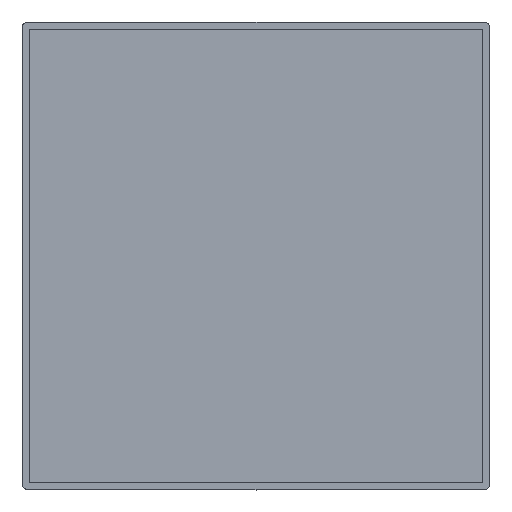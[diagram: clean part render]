
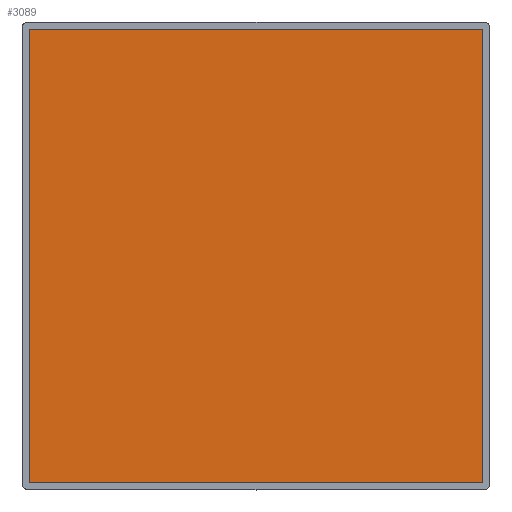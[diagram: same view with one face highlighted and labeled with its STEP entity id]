
A CAD part, top view. The second image highlights one B-rep face of the part: STEP entity #3089.
In plain terms, the highlighted planar face has unit normal (0, 0, 1).
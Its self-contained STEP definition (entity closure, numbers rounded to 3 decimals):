
#364=FACE_OUTER_BOUND('',#560,.T.);
#560=EDGE_LOOP('',(#2140,#2141,#2142,#2143));
#797=LINE('',#4427,#1062);
#801=LINE('',#4435,#1066);
#804=LINE('',#4441,#1069);
#807=LINE('',#4446,#1072);
#1062=VECTOR('',#3614,774.);
#1066=VECTOR('',#3620,774.);
#1069=VECTOR('',#3625,774.);
#1072=VECTOR('',#3630,774.);
#1315=VERTEX_POINT('',#4425);
#1316=VERTEX_POINT('',#4426);
#1319=VERTEX_POINT('',#4434);
#1321=VERTEX_POINT('',#4440);
#1627=EDGE_CURVE('',#1315,#1316,#797,.T.);
#1631=EDGE_CURVE('',#1316,#1319,#801,.T.);
#1634=EDGE_CURVE('',#1319,#1321,#804,.T.);
#1637=EDGE_CURVE('',#1321,#1315,#807,.T.);
#2140=ORIENTED_EDGE('',*,*,#1634,.F.);
#2141=ORIENTED_EDGE('',*,*,#1631,.F.);
#2142=ORIENTED_EDGE('',*,*,#1627,.F.);
#2143=ORIENTED_EDGE('',*,*,#1637,.F.);
#2981=PLANE('',#3297);
#3089=ADVANCED_FACE('',(#364),#2981,.T.);
#3297=AXIS2_PLACEMENT_3D('',#4449,#3634,#3635);
#3614=DIRECTION('',(0.,1.,0.));
#3620=DIRECTION('',(1.,0.,0.));
#3625=DIRECTION('',(0.,-1.,0.));
#3630=DIRECTION('',(-1.,0.,0.));
#3634=DIRECTION('center_axis',(0.,0.,
1.));
#3635=DIRECTION('ref_axis',(-1.,0.,0.));
#4425=CARTESIAN_POINT('',(266.877,-386.777,362.423));
#4426=CARTESIAN_POINT('',(266.877,387.223,362.423));
#4427=CARTESIAN_POINT('',(266.877,193.723,362.423));
#4434=CARTESIAN_POINT('',(1040.877,387.223,362.423));
#4435=CARTESIAN_POINT('',(847.377,387.223,362.423));
#4440=CARTESIAN_POINT('',(1040.877,-386.777,362.423));
#4441=CARTESIAN_POINT('',(1040.877,-193.277,362.423));
#4446=CARTESIAN_POINT('',(460.377,-386.777,362.423));
#4449=CARTESIAN_POINT('Origin',(653.877,0.223,362.423));
